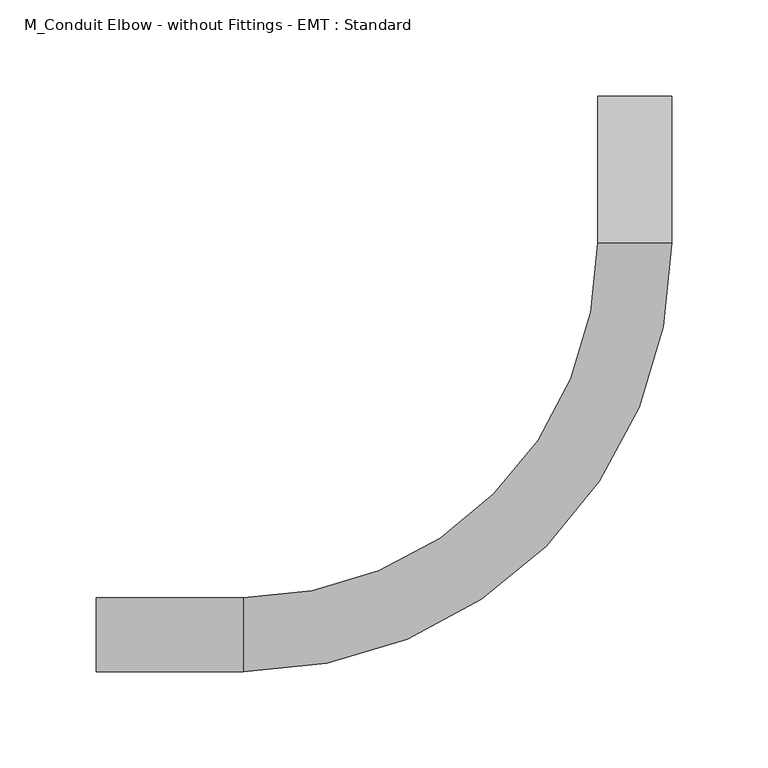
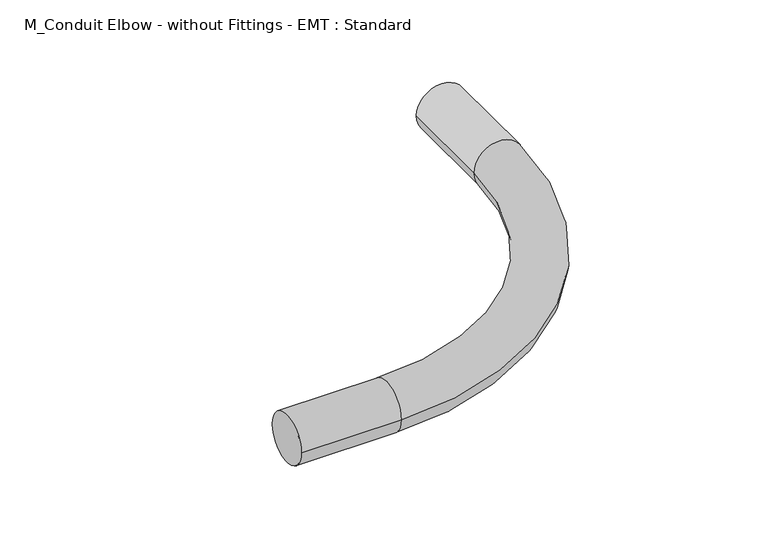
"""IFC4 building model written with IfcOpenShell, lengths in millimetres: cable carrier fitting geometry, M_Conduit Elbow - without Fittings - EMT : Standard."""

from ifc_helpers import new_model, si_unit, point, frame, origin, place, context, project, spatial, circle_curve, ellipse_curve, trimmed, source, transform, mapped, element, save
from ifc_brep_helpers import plane_surface, cylinder_surface, revolved_surface, advanced_brep


def m_conduit_elbow_without_fittings_emt_standard_0e6a189b(model_context):
    return source(origin(), model_context, "Body", "AdvancedBrep", [
        advanced_brep(
        [(-279.53, -19.177, 0.0), (-279.53, 19.177, 0.0), (-203.33, -19.177, 0.0), (-203.33, 19.177, 0.0), (-19.177, 203.33, 0.0), (19.177, 203.33, 0.0), (19.177, 279.53, 0.0), (-19.177, 279.53, 0.0)],
        [
            (0, 1, circle_curve(frame((-279.53, 0.0, 0.0), z_axis=(-1.0, 0.0, 0.0), x_axis=(0.0, 1.0, 0.0)), 19.177)),
            (1, 0, circle_curve(frame((-279.53, 0.0, 0.0), z_axis=(-1.0, 0.0, 0.0), x_axis=(0.0, 1.0, 0.0)), 19.177)),
            (0, 2),
            (2, 3, circle_curve(frame((-203.33, 0.0, 0.0), z_axis=(-1.0, 0.0, 0.0), x_axis=(0.0, 1.0, 0.0)), 19.177)),
            (3, 1),
            (3, 2, circle_curve(frame((-203.33, 0.0, 0.0), z_axis=(-1.0, 0.0, 0.0), x_axis=(0.0, 1.0, 0.0)), 19.177)),
            (4, 3, circle_curve(frame((-203.33, 203.33, 0.0), z_axis=(0.0, 0.0, -1.0), x_axis=(0.0, -1.0, 0.0)), 184.153)),
            (2, 5, circle_curve(frame((-203.33, 203.33, 0.0), z_axis=(0.0, 0.0, 1.0), x_axis=(0.0, -1.0, 0.0)), 222.507)),
            (5, 4, circle_curve(frame((0.0, 203.33, 0.0), z_axis=(0.0, -1.0, 0.0), x_axis=(-1.0, 0.0, 0.0)), 19.177)),
            (4, 5, circle_curve(frame((0.0, 203.33, 0.0), z_axis=(0.0, -1.0, 0.0), x_axis=(-1.0, 0.0, 0.0)), 19.177)),
            (6, 7, circle_curve(frame((0.0, 279.53, 0.0), z_axis=(0.0, 1.0, 0.0), x_axis=(-1.0, 0.0, 0.0)), 19.177)),
            (7, 6, circle_curve(frame((0.0, 279.53, 0.0), z_axis=(0.0, 1.0, 0.0), x_axis=(-1.0, 0.0, 0.0)), 19.177)),
            (5, 6),
            (7, 4),
        ],
        [
            plane_surface(frame((-279.53, 0.0, 0.0), z_axis=(-1.0, 0.0, 0.0), x_axis=(0.0, 0.0, 1.0))),
            cylinder_surface(frame((-279.53, 0.0, 0.0), z_axis=(-1.0, 0.0, 0.0), x_axis=(0.0, 1.0, 0.0)), 19.177),
            revolved_surface(trimmed(ellipse_curve(frame((-203.33, 0.0, 0.0), z_axis=(-1.0, 0.0, 0.0), x_axis=(0.0, 1.0, 0.0)), 19.177, 19.177), [point((-203.33, -19.177, 0.0))], [point((-203.33, 19.177, 0.0))], True, "CARTESIAN"), (-203.33, 203.33, 0.0), (0.0, 0.0, 1.0)),
            revolved_surface(trimmed(ellipse_curve(frame((-203.33, 0.0, 0.0), z_axis=(-1.0, 0.0, 0.0), x_axis=(0.0, 1.0, 0.0)), 19.177, 19.177), [point((-203.33, 19.177, 0.0))], [point((-203.33, -19.177, 0.0))], True, "CARTESIAN"), (-203.33, 203.33, 0.0), (0.0, 0.0, 1.0)),
            plane_surface(frame((0.0, 279.53, 0.0), z_axis=(0.0, 1.0, 0.0), x_axis=(0.0, 0.0, 1.0))),
            cylinder_surface(frame((0.0, 203.33, 0.0), z_axis=(0.0, -1.0, 0.0), x_axis=(-1.0, 0.0, 0.0)), 19.177),
        ],
        [
            (0, [[1, 2]]),
            (1, [[-1, 3, 4, 5]]),
            (1, [[-2, -5, 6, -3]]),
            (2, [[7, -4, 8, 9]]),
            (3, [[-8, -6, -7, 10]]),
            (4, [[11, 12]]),
            (5, [[-9, 13, -12, 14]]),
            (5, [[-10, -14, -11, -13]]),
        ],
    ),
    ])


if __name__ == "__main__":
    model = new_model("IFC4")
    model_context = context("Model", 3, world=origin())
    ifc_project = project(units=[si_unit("LENGTHUNIT", "METRE", prefix="MILLI")], contexts=[model_context])
    site = spatial("IfcSite", under=ifc_project)
    building = spatial("IfcBuilding", under=site)
    placement = place(None, origin())
    m_conduit_elbow_without_fittings_emt_standard_shape = m_conduit_elbow_without_fittings_emt_standard_0e6a189b(model_context)
    element("IfcCableCarrierFitting", 1, ObjectType="M_Conduit Elbow - without Fittings - EMT : Standard", at=placement, inside=building, context=model_context, shape_type="MappedRepresentation", body=[
        mapped(m_conduit_elbow_without_fittings_emt_standard_shape, transform((0.0, 0.0, 0.0), x_axis=(1.0, 0.0, 0.0), y_axis=(0.0, 1.0, 0.0), z_axis=(0.0, 0.0, 1.0))),
    ])
    save(model, "model.ifc")
